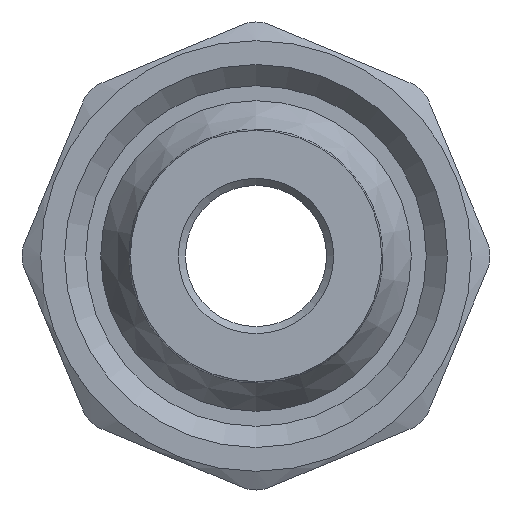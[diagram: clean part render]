
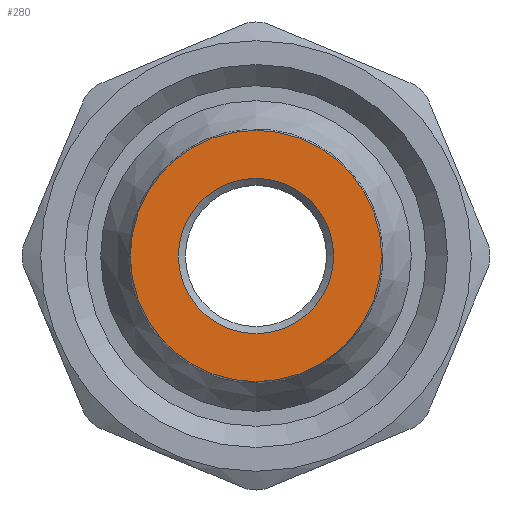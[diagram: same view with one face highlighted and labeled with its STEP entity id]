
A CAD part, front view. The second image highlights one B-rep face of the part: STEP entity #280.
In plain terms, the highlighted planar face has unit normal (0, -1, 0).
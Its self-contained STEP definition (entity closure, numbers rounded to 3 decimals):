
#280=ADVANCED_FACE('',(#389,#391),#393,.F.);
#389=FACE_BOUND('',#390,.T.);
#390=EDGE_LOOP('',(#1018));
#391=FACE_BOUND('',#392,.T.);
#392=EDGE_LOOP('',(#1019));
#393=PLANE('',#394);
#394=AXIS2_PLACEMENT_3D('',#395,#396,#397);
#395=CARTESIAN_POINT('',(0.,0.,0.));
#396=DIRECTION('',(0.,1.,0.));
#397=DIRECTION('',(-1.,0.,0.));
#1018=ORIENTED_EDGE('',*,*,#1229,.F.);
#1019=ORIENTED_EDGE('',*,*,#1234,.T.);
#1229=EDGE_CURVE('',#1339,#1339,#1340,.T.);
#1234=EDGE_CURVE('',#1349,#1349,#1350,.F.);
#1339=VERTEX_POINT('',#1544);
#1340=CIRCLE('',#1545,8.9);
#1349=VERTEX_POINT('',#1569);
#1350=CIRCLE('',#1570,5.5);
#1544=CARTESIAN_POINT('',(0.,0.,-8.9));
#1545=AXIS2_PLACEMENT_3D('',#1546,#1547,#1548);
#1546=CARTESIAN_POINT('',(0.,0.,0.));
#1547=DIRECTION('',(0.,1.,0.));
#1548=DIRECTION('',(0.,0.,-1.));
#1569=CARTESIAN_POINT('',(5.5,0.,0.));
#1570=AXIS2_PLACEMENT_3D('',#1571,#1572,#1573);
#1571=CARTESIAN_POINT('',(0.,0.,0.));
#1572=DIRECTION('',(0.,-1.,0.));
#1573=DIRECTION('',(1.,0.,0.));
